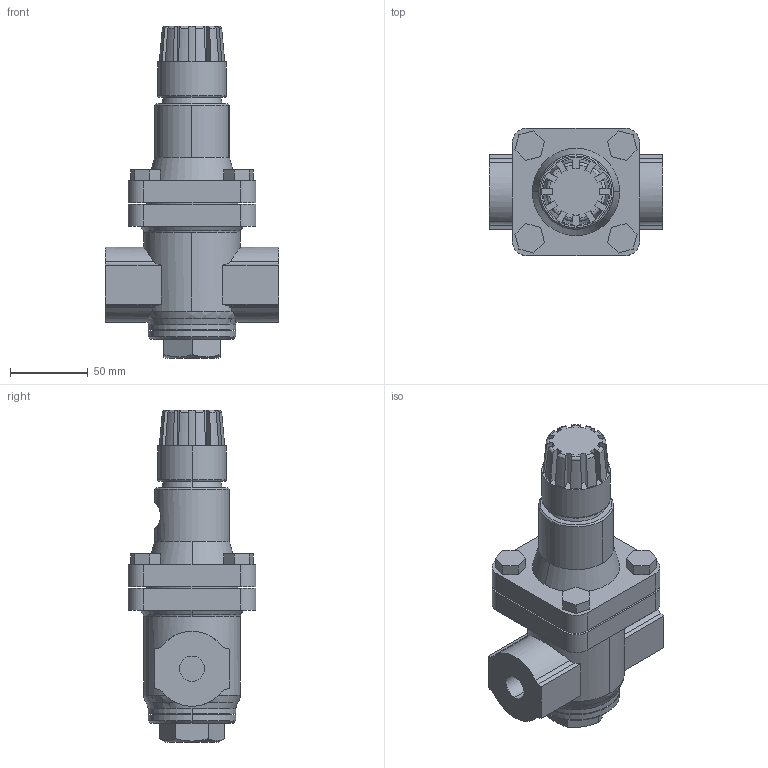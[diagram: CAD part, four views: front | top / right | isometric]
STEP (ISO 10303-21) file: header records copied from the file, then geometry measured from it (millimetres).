
FILE_DESCRIPTION( (''), '2;1');
FILE_NAME ('PC1276.4376.GD-45P 15A_14459.stp','2025-12-10T13:04:34',(''),(''),'spGate 20.6.3 (****-****-****-****)','','');
FILE_SCHEMA (('AUTOMOTIVE_DESIGN'));
Length unit declared in the file: millimetre
Bounding box: 111 x 82 x 212.9 mm (x, y, z)
Volume: 665326.1 mm3; surface area: 76917.6 mm2
Topology: 1 solids, 1 shells, 189 faces, 505 edges, 335 vertices
Faces by surface type: plane 94, cylinder 51, bspline 44
Entity records: 10879 total; most frequent: CARTESIAN_POINT 2486, ORIENTED_EDGE 1010, DIRECTION 826, COLOUR_RGB 695, PRESENTATION_STYLE_ASSIGNMENT 695, STYLED_ITEM 695, EDGE_CURVE 505, DRAUGHTING_PRE_DEFINED_CURVE_FONT 505
